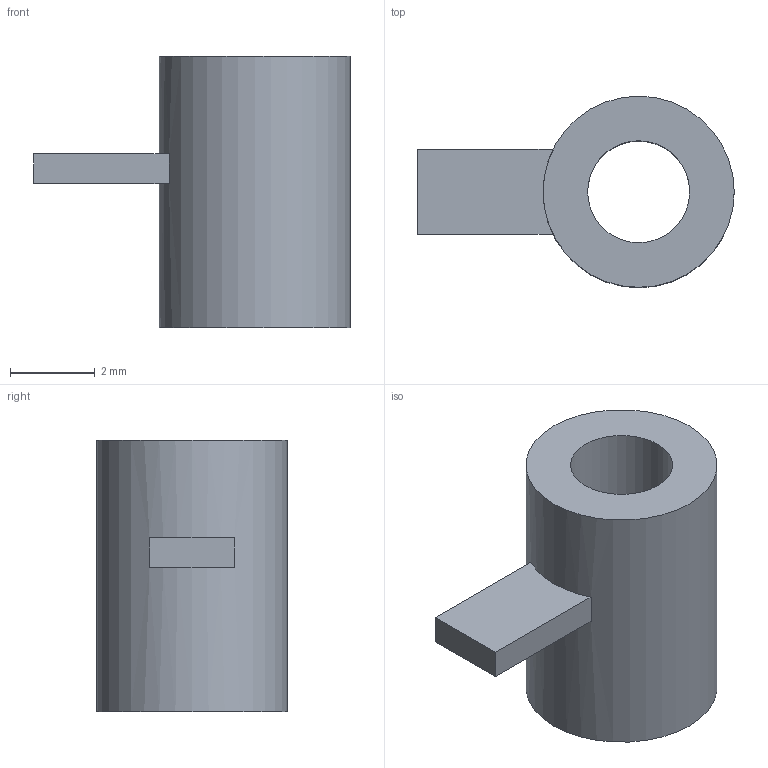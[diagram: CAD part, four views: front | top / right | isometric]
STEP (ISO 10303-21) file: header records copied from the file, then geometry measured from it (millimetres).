
FILE_DESCRIPTION(('Open CASCADE Model'),'2;1');
FILE_NAME('Display support H2','2026-11-18T13:29:44',('Author'),( 'Open CASCADE'),'Open CASCADE STEP processor 7.8','build123d', 'Unknown');
FILE_SCHEMA(('AUTOMOTIVE_DESIGN { 1 0 10303 214 1 1 1 1 }'));
Length unit declared in the file: millimetre
Products named in the file (1): Display support H2
Bounding box: 7.45 x 4.5 x 6.4 mm (x, y, z)
Volume: 77.1 mm3; surface area: 178 mm2
Topology: 1 solids, 1 shells, 9 faces, 18 edges, 12 vertices
Faces by surface type: plane 7, cylinder 2
Full cylindrical faces by diameter (mm): 2.4 x1, 4.5 x1
Entity records: 491 total; most frequent: CARTESIAN_POINT 80, DIRECTION 76, LINE 38, VECTOR 38, ORIENTED_EDGE 36, PCURVE 36, DEFINITIONAL_REPRESENTATION 36, EDGE_CURVE 18
